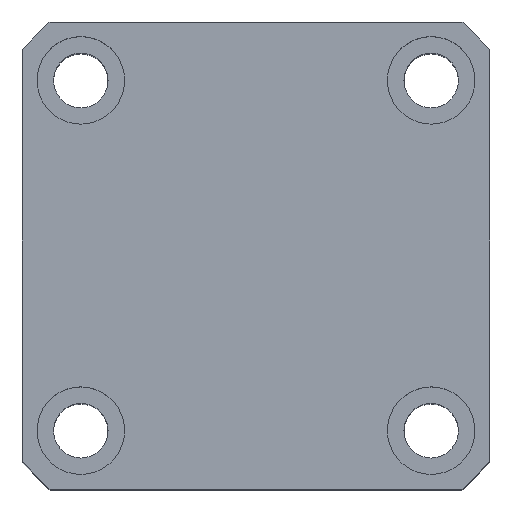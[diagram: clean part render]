
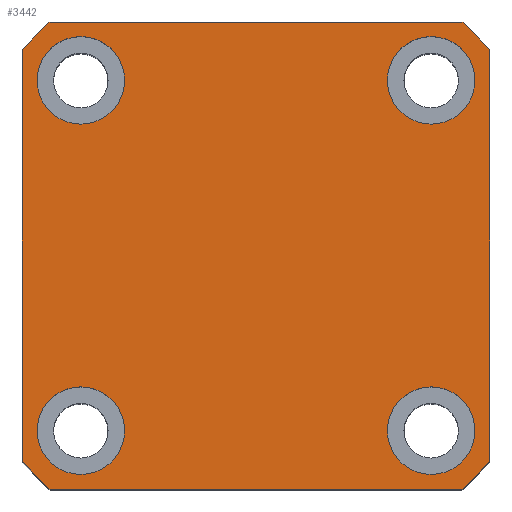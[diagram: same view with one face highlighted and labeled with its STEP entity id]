
A CAD part, top view. The second image highlights one B-rep face of the part: STEP entity #3442.
In plain terms, the highlighted planar face has unit normal (0, 0, 1) as drawn and (1, 0, 0) by its records, which use the part's own axes.
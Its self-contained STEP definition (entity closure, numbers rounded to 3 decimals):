
#71 = CARTESIAN_POINT ( 'NONE',  ( 55., -24., -21.166 ) ) ;
#141 = AXIS2_PLACEMENT_3D ( 'NONE', #1671, #7467, #2521 ) ;
#152 = CARTESIAN_POINT ( 'NONE',  ( 55., 0., 0. ) ) ;
#327 = FACE_BOUND ( 'NONE', #4345, .T. ) ;
#651 = ORIENTED_EDGE ( 'NONE', *, *, #2739, .F. ) ;
#748 = EDGE_CURVE ( 'NONE', #8044, #8943, #5801, .T. ) ;
#806 = AXIS2_PLACEMENT_3D ( 'NONE', #3189, #3175, #3143 ) ;
#814 = CARTESIAN_POINT ( 'NONE',  ( 55., 0., 0. ) ) ;
#1068 = DIRECTION ( 'NONE',  ( 0., 0., -1. ) ) ;
#1204 = LINE ( 'NONE', #3323, #5436 ) ;
#1223 = DIRECTION ( 'NONE',  ( 1., 0., 0. ) ) ;
#1295 = EDGE_CURVE ( 'NONE', #10051, #4072, #4270, .T. ) ;
#1350 = LINE ( 'NONE', #6051, #7724 ) ;
#1375 = ORIENTED_EDGE ( 'NONE', *, *, #7009, .F. ) ;
#1377 = VERTEX_POINT ( 'NONE', #9019 ) ;
#1460 = ORIENTED_EDGE ( 'NONE', *, *, #2344, .T. ) ;
#1607 = ORIENTED_EDGE ( 'NONE', *, *, #1295, .T. ) ;
#1610 = EDGE_CURVE ( 'NONE', #10627, #1377, #9735, .T. ) ;
#1643 = CIRCLE ( 'NONE', #3557, 32. ) ;
#1660 = VERTEX_POINT ( 'NONE', #7200 ) ;
#1671 = CARTESIAN_POINT ( 'NONE',  ( 55., 18., 18. ) ) ;
#1721 = DIRECTION ( 'NONE',  ( 0., 0., -1. ) ) ;
#1725 = ORIENTED_EDGE ( 'NONE', *, *, #748, .F. ) ;
#1767 = DIRECTION ( 'NONE',  ( 0., 0., -1. ) ) ;
#1776 = DIRECTION ( 'NONE',  ( 1., 0., 0. ) ) ;
#1803 = CARTESIAN_POINT ( 'NONE',  ( 55., 24., 21.166 ) ) ;
#1818 = CARTESIAN_POINT ( 'NONE',  ( 55., 18., -18. ) ) ;
#1863 = VERTEX_POINT ( 'NONE', #6087 ) ;
#1875 = CARTESIAN_POINT ( 'NONE',  ( 55., 18., 13.5 ) ) ;
#1898 = EDGE_CURVE ( 'NONE', #9738, #7480, #1350, .T. ) ;
#1947 = CIRCLE ( 'NONE', #10732, 4.5 ) ;
#1999 = CARTESIAN_POINT ( 'NONE',  ( 55., 18., 22.5 ) ) ;
#2285 = AXIS2_PLACEMENT_3D ( 'NONE', #814, #6712, #1721 ) ;
#2344 = EDGE_CURVE ( 'NONE', #5784, #9426, #1204, .T. ) ;
#2508 = CARTESIAN_POINT ( 'NONE',  ( 55., -18., -22.5 ) ) ;
#2521 = DIRECTION ( 'NONE',  ( 0., 0., -1. ) ) ;
#2577 = EDGE_CURVE ( 'NONE', #6417, #1660, #6325, .T. ) ;
#2601 = DIRECTION ( 'NONE',  ( 0., 0., -1. ) ) ;
#2739 = EDGE_CURVE ( 'NONE', #1377, #10627, #3605, .T. ) ;
#2931 = FACE_BOUND ( 'NONE', #7545, .T. ) ;
#3137 = CIRCLE ( 'NONE', #9524, 32. ) ;
#3143 = DIRECTION ( 'NONE',  ( 0., 0., -1. ) ) ;
#3175 = DIRECTION ( 'NONE',  ( 1., 0., 0. ) ) ;
#3189 = CARTESIAN_POINT ( 'NONE',  ( 55., 0., 0. ) ) ;
#3293 = AXIS2_PLACEMENT_3D ( 'NONE', #1818, #1776, #1767 ) ;
#3314 = DIRECTION ( 'NONE',  ( 0., 1., 0. ) ) ;
#3323 = CARTESIAN_POINT ( 'NONE',  ( 55., 24., -24. ) ) ;
#3336 = DIRECTION ( 'NONE',  ( 0., -1., 0. ) ) ;
#3362 = CIRCLE ( 'NONE', #2285, 32. ) ;
#3442 = ADVANCED_FACE ( 'NONE', ( #8967, #6816, #327, #2931, #4645 ), #8423, .T. ) ;
#3553 = AXIS2_PLACEMENT_3D ( 'NONE', #7491, #7488, #7463 ) ;
#3557 = AXIS2_PLACEMENT_3D ( 'NONE', #3753, #9440, #4581 ) ;
#3605 = CIRCLE ( 'NONE', #8261, 4.5 ) ;
#3753 = CARTESIAN_POINT ( 'NONE',  ( 55., 0., 0. ) ) ;
#3906 = EDGE_CURVE ( 'NONE', #1863, #6681, #9539, .T. ) ;
#4072 = VERTEX_POINT ( 'NONE', #1803 ) ;
#4162 = CARTESIAN_POINT ( 'NONE',  ( 55., -18., 22.5 ) ) ;
#4186 = EDGE_CURVE ( 'NONE', #9426, #10051, #4189, .T. ) ;
#4189 = CIRCLE ( 'NONE', #5920, 32. ) ;
#4214 = EDGE_CURVE ( 'NONE', #8113, #7567, #6384, .T. ) ;
#4270 = LINE ( 'NONE', #9327, #4797 ) ;
#4345 = EDGE_LOOP ( 'NONE', ( #1375, #7932 ) ) ;
#4367 = CARTESIAN_POINT ( 'NONE',  ( 55., 21.166, 24. ) ) ;
#4581 = DIRECTION ( 'NONE',  ( 0., 0., -1. ) ) ;
#4645 = FACE_OUTER_BOUND ( 'NONE', #9706, .T. ) ;
#4677 = DIRECTION ( 'NONE',  ( 1., 0., 0. ) ) ;
#4686 = ORIENTED_EDGE ( 'NONE', *, *, #1898, .T. ) ;
#4797 = VECTOR ( 'NONE', #9287, 1000. ) ;
#5019 = CARTESIAN_POINT ( 'NONE',  ( 55., 24., -21.166 ) ) ;
#5108 = ORIENTED_EDGE ( 'NONE', *, *, #4186, .T. ) ;
#5305 = EDGE_CURVE ( 'NONE', #6681, #1863, #1947, .T. ) ;
#5369 = ORIENTED_EDGE ( 'NONE', *, *, #10017, .F. ) ;
#5404 = EDGE_LOOP ( 'NONE', ( #7503, #651 ) ) ;
#5436 = VECTOR ( 'NONE', #3314, 1000. ) ;
#5481 = CARTESIAN_POINT ( 'NONE',  ( 55., 18., -13.5 ) ) ;
#5570 = ORIENTED_EDGE ( 'NONE', *, *, #9589, .T. ) ;
#5749 = CIRCLE ( 'NONE', #141, 4.5 ) ;
#5784 = VERTEX_POINT ( 'NONE', #9384 ) ;
#5801 = CIRCLE ( 'NONE', #9656, 4.5 ) ;
#5920 = AXIS2_PLACEMENT_3D ( 'NONE', #8230, #8195, #2601 ) ;
#6051 = CARTESIAN_POINT ( 'NONE',  ( 55., -24., 24. ) ) ;
#6087 = CARTESIAN_POINT ( 'NONE',  ( 55., -18., 13.5 ) ) ;
#6103 = DIRECTION ( 'NONE',  ( 0., 0., -1. ) ) ;
#6127 = DIRECTION ( 'NONE',  ( 1., 0., 0. ) ) ;
#6253 = CARTESIAN_POINT ( 'NONE',  ( 55., 18., -18. ) ) ;
#6325 = CIRCLE ( 'NONE', #3293, 4.5 ) ;
#6369 = ORIENTED_EDGE ( 'NONE', *, *, #7629, .T. ) ;
#6384 = LINE ( 'NONE', #8264, #8784 ) ;
#6417 = VERTEX_POINT ( 'NONE', #5481 ) ;
#6681 = VERTEX_POINT ( 'NONE', #4162 ) ;
#6712 = DIRECTION ( 'NONE',  ( 1., 0., 0. ) ) ;
#6733 = EDGE_CURVE ( 'NONE', #4072, #8113, #3362, .T. ) ;
#6816 = FACE_BOUND ( 'NONE', #8837, .T. ) ;
#7009 = EDGE_CURVE ( 'NONE', #1660, #6417, #9993, .T. ) ;
#7066 = DIRECTION ( 'NONE',  ( 0., 0., -1. ) ) ;
#7200 = CARTESIAN_POINT ( 'NONE',  ( 55., 18., -22.5 ) ) ;
#7281 = ORIENTED_EDGE ( 'NONE', *, *, #5305, .F. ) ;
#7463 = DIRECTION ( 'NONE',  ( 0., 0., -1. ) ) ;
#7467 = DIRECTION ( 'NONE',  ( 1., 0., 0. ) ) ;
#7480 = VERTEX_POINT ( 'NONE', #71 ) ;
#7488 = DIRECTION ( 'NONE',  ( 1., 0., 0. ) ) ;
#7491 = CARTESIAN_POINT ( 'NONE',  ( 55., -18., -18. ) ) ;
#7497 = CARTESIAN_POINT ( 'NONE',  ( 55., 21.166, -24. ) ) ;
#7503 = ORIENTED_EDGE ( 'NONE', *, *, #1610, .F. ) ;
#7545 = EDGE_LOOP ( 'NONE', ( #5369, #1725 ) ) ;
#7567 = VERTEX_POINT ( 'NONE', #10185 ) ;
#7629 = EDGE_CURVE ( 'NONE', #7567, #9738, #1643, .T. ) ;
#7724 = VECTOR ( 'NONE', #6103, 1000. ) ;
#7932 = ORIENTED_EDGE ( 'NONE', *, *, #2577, .F. ) ;
#7993 = ORIENTED_EDGE ( 'NONE', *, *, #4214, .T. ) ;
#8044 = VERTEX_POINT ( 'NONE', #1999 ) ;
#8113 = VERTEX_POINT ( 'NONE', #4367 ) ;
#8195 = DIRECTION ( 'NONE',  ( 1., 0., 0. ) ) ;
#8230 = CARTESIAN_POINT ( 'NONE',  ( 55., 0., 0. ) ) ;
#8261 = AXIS2_PLACEMENT_3D ( 'NONE', #10094, #10078, #10066 ) ;
#8264 = CARTESIAN_POINT ( 'NONE',  ( 55., 24., 24. ) ) ;
#8299 = DIRECTION ( 'NONE',  ( 0., 0., -1. ) ) ;
#8363 = DIRECTION ( 'NONE',  ( 1., 0., 0. ) ) ;
#8394 = CARTESIAN_POINT ( 'NONE',  ( 55., -18., 18. ) ) ;
#8423 = PLANE ( 'NONE',  #806 ) ;
#8784 = VECTOR ( 'NONE', #3336, 1000. ) ;
#8837 = EDGE_LOOP ( 'NONE', ( #9675, #7281 ) ) ;
#8943 = VERTEX_POINT ( 'NONE', #1875 ) ;
#8967 = FACE_BOUND ( 'NONE', #5404, .T. ) ;
#9019 = CARTESIAN_POINT ( 'NONE',  ( 55., -18., -13.5 ) ) ;
#9287 = DIRECTION ( 'NONE',  ( 0., 0., 1. ) ) ;
#9327 = CARTESIAN_POINT ( 'NONE',  ( 55., 24., 24. ) ) ;
#9374 = AXIS2_PLACEMENT_3D ( 'NONE', #8394, #8363, #8299 ) ;
#9384 = CARTESIAN_POINT ( 'NONE',  ( 55., -21.166, -24. ) ) ;
#9426 = VERTEX_POINT ( 'NONE', #7497 ) ;
#9431 = CARTESIAN_POINT ( 'NONE',  ( 55., -24., 21.166 ) ) ;
#9440 = DIRECTION ( 'NONE',  ( 1., 0., 0. ) ) ;
#9524 = AXIS2_PLACEMENT_3D ( 'NONE', #152, #6127, #1068 ) ;
#9537 = CARTESIAN_POINT ( 'NONE',  ( 55., -18., 18. ) ) ;
#9539 = CIRCLE ( 'NONE', #9374, 4.5 ) ;
#9554 = CARTESIAN_POINT ( 'NONE',  ( 55., 18., 18. ) ) ;
#9589 = EDGE_CURVE ( 'NONE', #7480, #5784, #3137, .T. ) ;
#9611 = DIRECTION ( 'NONE',  ( 0., 0., -1. ) ) ;
#9656 = AXIS2_PLACEMENT_3D ( 'NONE', #9554, #9686, #9611 ) ;
#9675 = ORIENTED_EDGE ( 'NONE', *, *, #3906, .F. ) ;
#9686 = DIRECTION ( 'NONE',  ( 1., 0., 0. ) ) ;
#9706 = EDGE_LOOP ( 'NONE', ( #1460, #5108, #1607, #9859, #7993, #6369, #4686, #5570 ) ) ;
#9735 = CIRCLE ( 'NONE', #3553, 4.5 ) ;
#9738 = VERTEX_POINT ( 'NONE', #9431 ) ;
#9859 = ORIENTED_EDGE ( 'NONE', *, *, #6733, .T. ) ;
#9959 = AXIS2_PLACEMENT_3D ( 'NONE', #6253, #1223, #7066 ) ;
#9993 = CIRCLE ( 'NONE', #9959, 4.5 ) ;
#10017 = EDGE_CURVE ( 'NONE', #8943, #8044, #5749, .T. ) ;
#10051 = VERTEX_POINT ( 'NONE', #5019 ) ;
#10066 = DIRECTION ( 'NONE',  ( 0., 0., -1. ) ) ;
#10078 = DIRECTION ( 'NONE',  ( 1., 0., 0. ) ) ;
#10094 = CARTESIAN_POINT ( 'NONE',  ( 55., -18., -18. ) ) ;
#10185 = CARTESIAN_POINT ( 'NONE',  ( 55., -21.166, 24. ) ) ;
#10341 = DIRECTION ( 'NONE',  ( 0., 0., -1. ) ) ;
#10627 = VERTEX_POINT ( 'NONE', #2508 ) ;
#10732 = AXIS2_PLACEMENT_3D ( 'NONE', #9537, #4677, #10341 ) ;
